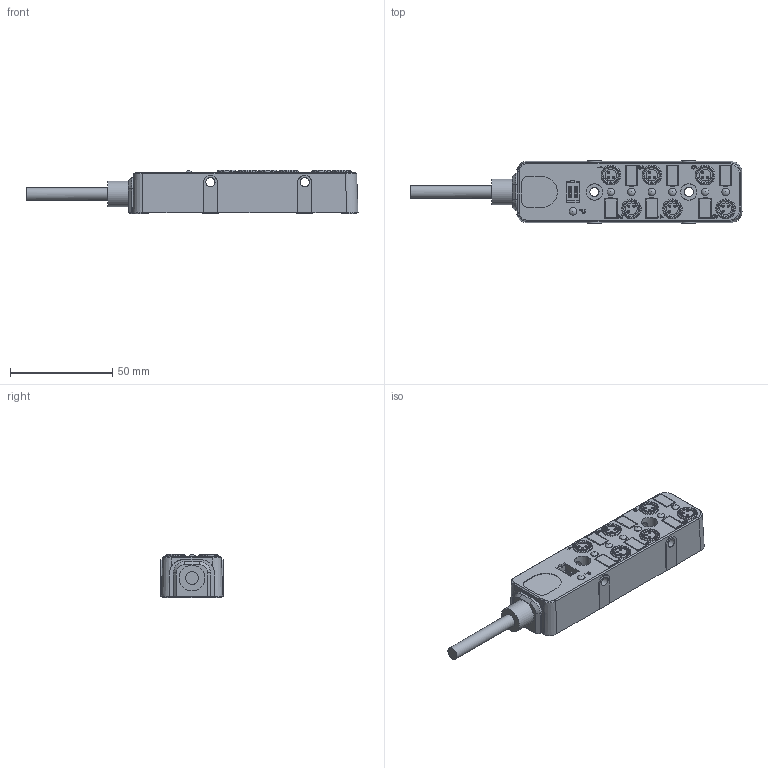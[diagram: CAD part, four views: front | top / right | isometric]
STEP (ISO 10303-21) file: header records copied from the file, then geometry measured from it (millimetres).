
FILE_DESCRIPTION(/* description */ (''),/* implementation_level */ '2;1');
FILE_NAME(/* name */ 'CAD_ESP6-8-2P-x_V1_stp.stp',/* time_stamp */ '2023-05-30T11:11:01+08:00',/* author */ (''),/* organization */ (''),/* preprocessor_version */ 'ST-DEVELOPER v16',/* originating_system */ 'SIEMENS PLM Software NX 10.0',/* authorisation */ '');
FILE_SCHEMA (('AP203_CONFIGURATION_CONTROLLED_3D_DESIGN_OF_MECHANICAL_PARTS_AND_ASSEMBLIES_MIM_LF { 1 0 10303 403 2 1 2}'));
Products named in the file (1): chan37F8B393g4ki
Bounding box: 161.99 x 30.4 x 21 mm (x, y, z)
Volume: 46361.1 mm3; surface area: 34972.9 mm2
Topology: 39 solids, 45 shells, 2679 faces, 7061 edges, 4705 vertices
Faces by surface type: plane 2062, cylinder 396, bspline 140, cone 63, torus 9, sphere 7, extrusion 2
Full cylindrical faces by diameter (mm): 0.8 x18, 1.1 x18, 1.5 x54, 1.65 x36, 1.7 x36, 2.4 x3, 3.6 x7, 3.63 x7, 3.8 x21, 3.95 x7, 4.5 x6, 5.7 x6, 6 x7, 6.2 x1, 7 x6, 7.2 x6, 8 x2, 8.6 x6, 9.6 x18, 12.5 x2
Entity records: 90220 total; most frequent: CARTESIAN_POINT 26602, ORIENTED_EDGE 13120, DIRECTION 11920, EDGE_CURVE 6560, VECTOR 5034, LINE 5032, VERTEX_POINT 4562, AXIS2_PLACEMENT_3D 3443
